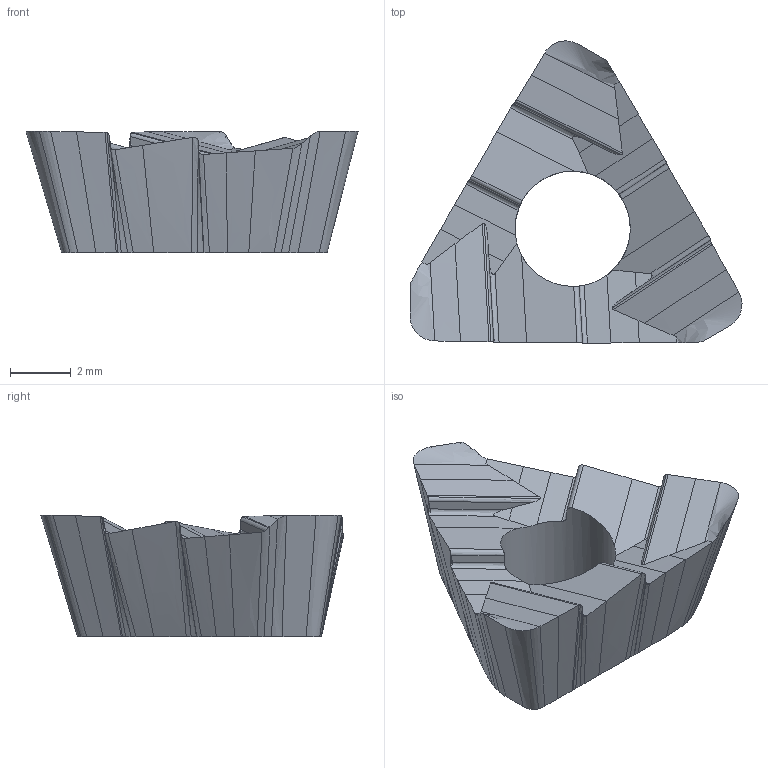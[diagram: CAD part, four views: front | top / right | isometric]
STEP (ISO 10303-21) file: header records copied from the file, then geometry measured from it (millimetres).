
FILE_DESCRIPTION(('CATIA V5 STEP','CAx-IF Rec.Pracs.--- Model Styling and Organization---1.2---2011-12-15'),'2;1');
FILE_NAME('N:\data\isr\design\special1\users\EVA_U\Requests\NPA\3322856_HM390 TPKT 1003PDR-HS\HM390 TPKT 1003PDR-HS.stp','2018-08-08T07:24:58+00:00',('none'),('none'),'CATIA Version 5 Release 21 SP 5 (IN-10)','CATIA V5 STEP AP214','none');
FILE_SCHEMA(('AUTOMOTIVE_DESIGN { 1 0 10303 214 1 1 1 1 }'));
Length unit declared in the file: millimetre
Products named in the file (1): HM390 TPKT 1003PDR-HS
Bounding box: 10.95 x 9.96 x 4 mm (x, y, z)
Volume: 148.5 mm3; surface area: 248.9 mm2
Topology: 1 solids, 1 shells, 118 faces, 399 edges, 279 vertices
Faces by surface type: bspline 69, extrusion 42, plane 5, cylinder 2
Entity records: 13075 total; most frequent: CARTESIAN_POINT 10350, ORIENTED_EDGE 664, B_SPLINE_CURVE_WITH_KNOTS 340, EDGE_CURVE 332, VERTEX_POINT 215, DIRECTION 157, VECTOR 137, EDGE_LOOP 119
